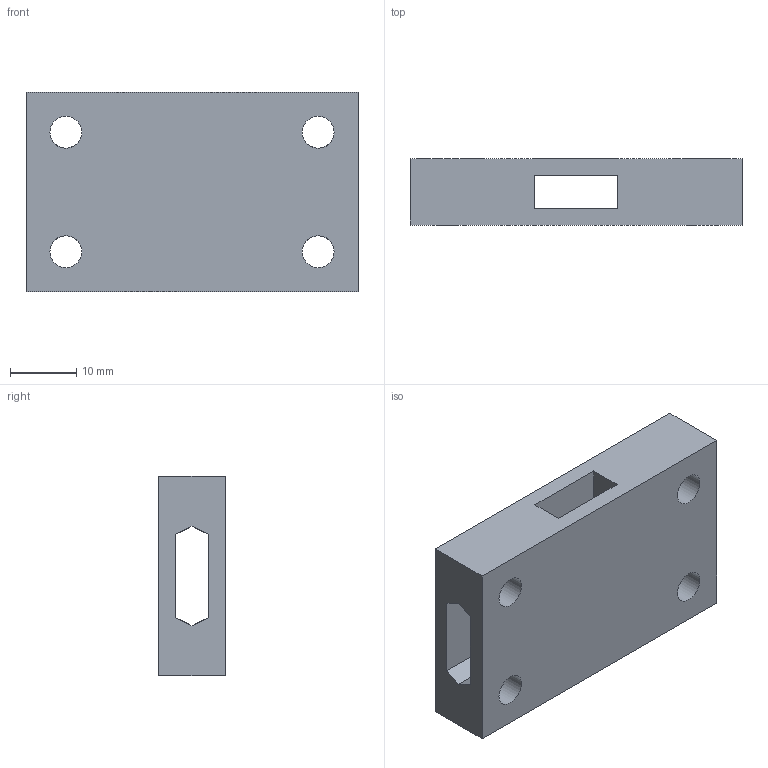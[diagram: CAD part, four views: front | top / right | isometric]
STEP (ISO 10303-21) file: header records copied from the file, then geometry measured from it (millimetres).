
FILE_DESCRIPTION(/* description */ (''),/* implementation_level */ '2;1');
FILE_NAME(/* name */ 'C:/Users/harry/OneDrive - University of Bristol/PhD/COVID/Clean Access/CAD/T USB Adapter.step',/* time_stamp */ '2020-05-11T13:44:41+01:00',/* author */ (''),/* organization */ (''),/* preprocessor_version */ 'ST-DEVELOPER v18.1',/* originating_system */ 'Autodesk Translation Framework v9.2.0.1227',/* authorisation */ '');
FILE_SCHEMA (('AUTOMOTIVE_DESIGN { 1 0 10303 214 3 1 1 }'));
Length unit declared in the file: millimetre
Products named in the file (1): testadapter
Bounding box: 50 x 10 x 30 mm (x, y, z)
Volume: 9188.5 mm3; surface area: 6847.8 mm2
Topology: 1 solids, 1 shells, 39 faces, 130 edges, 86 vertices
Faces by surface type: plane 27, cylinder 6, cone 4, bspline 2
Full cylindrical faces by diameter (mm): 4.8 x4, 14.577 x2
Entity records: 1605 total; most frequent: CARTESIAN_POINT 370, ORIENTED_EDGE 260, DIRECTION 244, EDGE_CURVE 130, VERTEX_POINT 86, LINE 84, VECTOR 84, AXIS2_PLACEMENT_3D 80
